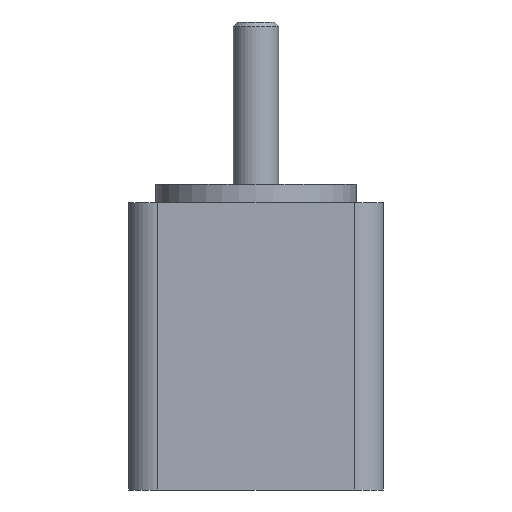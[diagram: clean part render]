
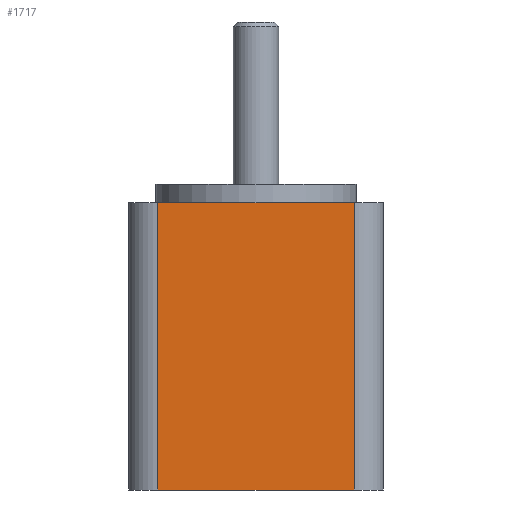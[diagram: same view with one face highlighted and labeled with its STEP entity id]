
A CAD part, front view. The second image highlights one B-rep face of the part: STEP entity #1717.
In plain terms, the highlighted planar face has unit normal (0, -1, 0).
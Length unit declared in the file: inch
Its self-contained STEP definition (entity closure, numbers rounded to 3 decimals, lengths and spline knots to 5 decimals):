
#1428=CARTESIAN_POINT('',(-0.425,-0.55,1.24));
#1429=VERTEX_POINT('',#1428);
#1437=CARTESIAN_POINT('',(0.425,-0.55,1.24));
#1438=VERTEX_POINT('',#1437);
#1439=CARTESIAN_POINT('',(-0.425,-0.55,1.24));
#1440=DIRECTION('',(1.0,0.0,0.0));
#1441=VECTOR('',#1440,0.85);
#1442=LINE('',#1439,#1441);
#1443=EDGE_CURVE('',#1429,#1438,#1442,.T.);
#1674=CARTESIAN_POINT('',(-0.425,-0.55,0.0));
#1675=VERTEX_POINT('',#1674);
#1683=CARTESIAN_POINT('',(-0.425,-0.55,1.24));
#1684=DIRECTION('',(0.0,0.0,-1.0));
#1685=VECTOR('',#1684,1.24);
#1686=LINE('',#1683,#1685);
#1687=EDGE_CURVE('',#1429,#1675,#1686,.T.);
#1694=CARTESIAN_POINT('',(-0.425,-0.55,1.24));
#1695=DIRECTION('',(0.0,-1.0,0.0));
#1696=DIRECTION('',(0.0,0.0,-1.0));
#1697=AXIS2_PLACEMENT_3D('',#1694,#1695,#1696);
#1698=PLANE('',#1697);
#1699=CARTESIAN_POINT('',(0.425,-0.55,0.0));
#1700=VERTEX_POINT('',#1699);
#1701=CARTESIAN_POINT('',(-0.425,-0.55,0.0));
#1702=DIRECTION('',(1.0,0.0,0.0));
#1703=VECTOR('',#1702,0.85);
#1704=LINE('',#1701,#1703);
#1705=EDGE_CURVE('',#1675,#1700,#1704,.T.);
#1706=ORIENTED_EDGE('',*,*,#1705,.T.);
#1707=CARTESIAN_POINT('',(0.425,-0.55,1.24));
#1708=DIRECTION('',(0.0,0.0,-1.0));
#1709=VECTOR('',#1708,1.24);
#1710=LINE('',#1707,#1709);
#1711=EDGE_CURVE('',#1438,#1700,#1710,.T.);
#1712=ORIENTED_EDGE('',*,*,#1711,.F.);
#1713=ORIENTED_EDGE('',*,*,#1443,.F.);
#1714=ORIENTED_EDGE('',*,*,#1687,.T.);
#1715=EDGE_LOOP('',(#1706,#1712,#1713,#1714));
#1716=FACE_OUTER_BOUND('',#1715,.T.);
#1717=ADVANCED_FACE('',(#1716),#1698,.T.);
